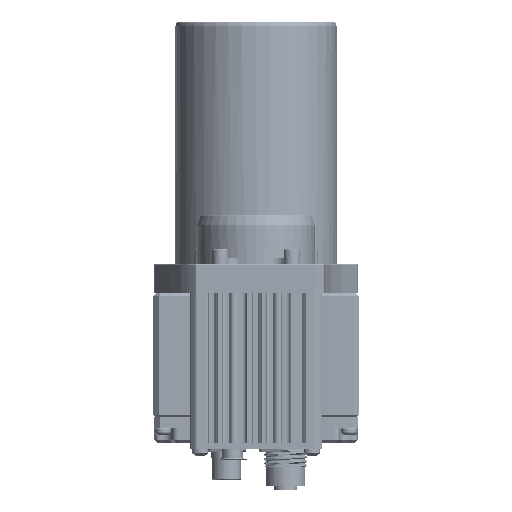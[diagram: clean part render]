
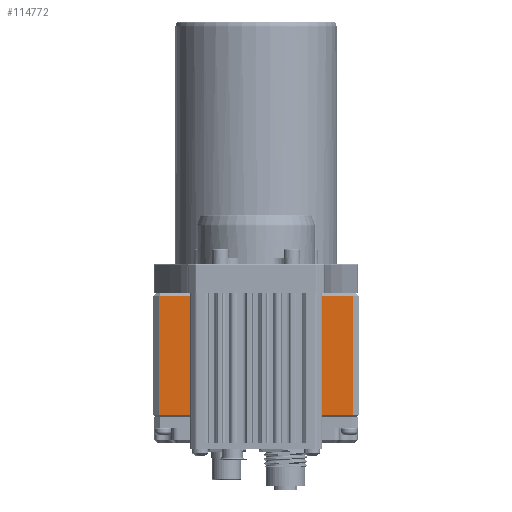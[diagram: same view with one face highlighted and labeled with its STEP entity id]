
A CAD part, left-side view. The second image highlights one B-rep face of the part: STEP entity #114772.
In plain terms, the highlighted planar face has unit normal (-1, 0, 0).
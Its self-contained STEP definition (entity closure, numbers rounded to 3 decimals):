
#2156=PLANE('',#125692);
#7249=FACE_OUTER_BOUND('',#13510,.T.);
#13510=EDGE_LOOP('',(#88189,#88190,#88191,#88192));
#28801=LINE('',#194576,#37861);
#28811=LINE('',#194594,#37871);
#28821=LINE('',#194614,#37881);
#28824=LINE('',#194618,#37884);
#37861=VECTOR('',#151010,1000.);
#37871=VECTOR('',#151028,1000.);
#37881=VECTOR('',#151050,1000.);
#37884=VECTOR('',#151055,1000.);
#49347=VERTEX_POINT('',#194562);
#49351=VERTEX_POINT('',#194574);
#49352=VERTEX_POINT('',#194582);
#49355=VERTEX_POINT('',#194592);
#63341=EDGE_CURVE('',#49347,#49351,#28801,.T.);
#63351=EDGE_CURVE('',#49352,#49355,#28811,.T.);
#63361=EDGE_CURVE('',#49351,#49352,#28821,.T.);
#63364=EDGE_CURVE('',#49355,#49347,#28824,.T.);
#88189=ORIENTED_EDGE('',*,*,#63364,.T.);
#88190=ORIENTED_EDGE('',*,*,#63341,.T.);
#88191=ORIENTED_EDGE('',*,*,#63361,.T.);
#88192=ORIENTED_EDGE('',*,*,#63351,.T.);
#114772=ADVANCED_FACE('',(#7249),#2156,.T.);
#125692=AXIS2_PLACEMENT_3D('',#194642,#151084,#151085);
#151010=DIRECTION('',(0.,-1.,0.));
#151028=DIRECTION('',(0.,1.,0.));
#151050=DIRECTION('',(0.,0.,1.));
#151055=DIRECTION('',(0.,0.,-1.));
#151084=DIRECTION('center_axis',(-1.,0.,0.));
#151085=DIRECTION('ref_axis',(0.,-1.,0.));
#194562=CARTESIAN_POINT('',(-33.,33.,-51.5));
#194574=CARTESIAN_POINT('',(-33.,-33.,-51.5));
#194576=CARTESIAN_POINT('',(-33.,-33.,-51.5));
#194582=CARTESIAN_POINT('',(-33.,-33.,-11.));
#194592=CARTESIAN_POINT('',(-33.,33.,-11.));
#194594=CARTESIAN_POINT('',(-33.,-35.,-11.));
#194614=CARTESIAN_POINT('',(-33.,-33.,-52.));
#194618=CARTESIAN_POINT('',(-33.,33.,-52.));
#194642=CARTESIAN_POINT('Origin',(-33.,-35.,-52.));
